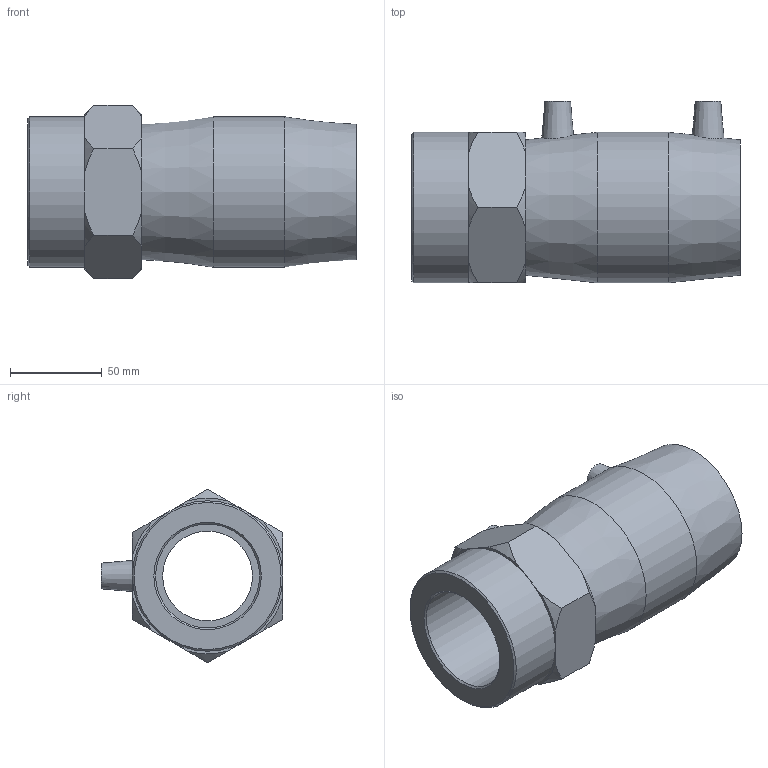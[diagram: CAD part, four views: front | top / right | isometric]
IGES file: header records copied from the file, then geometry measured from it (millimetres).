
Global section: file name: 493104063020N.ipt; native system: Autodesk Inventor 2015; preprocessor: unknown; author: KIM; date: 20200202.122451; units: millimetre
Bounding box: 179 x 99 x 94.69 mm (x, y, z)
Volume: 482269.4 mm3; surface area: 87839.6 mm2
Topology: 1 solids, 1 shells, 54 faces, 130 edges, 86 vertices
Faces by surface type: plane 24, cone 17, revolution 9, cylinder 4
Full cylindrical faces by diameter (mm): 4 x2, 82 x2
